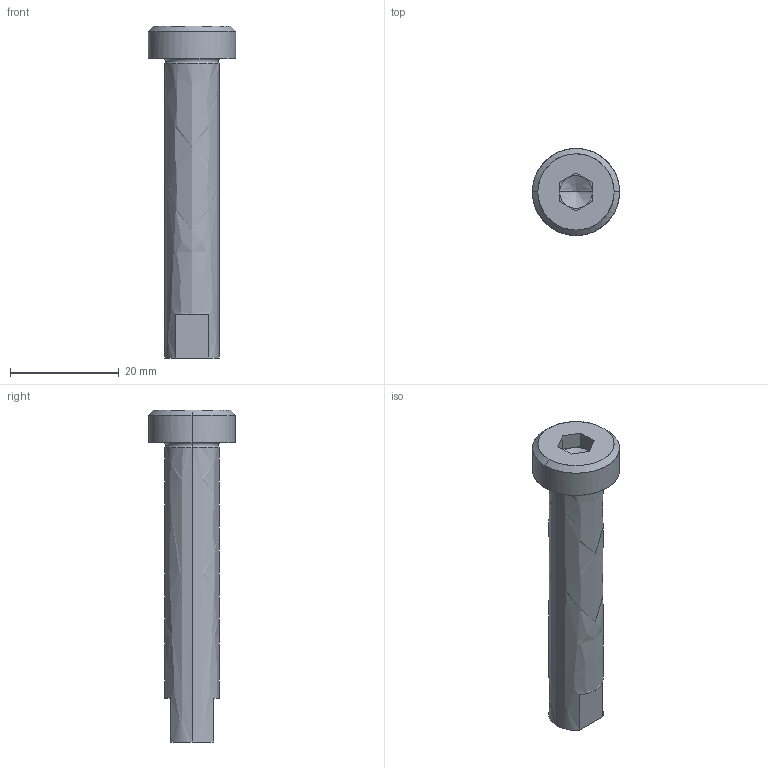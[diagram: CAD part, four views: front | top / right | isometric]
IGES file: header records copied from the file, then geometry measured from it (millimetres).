
Global section: file name: E:\UnigraphicsGraphicData\MISUMI_PRESS-PARTS\IGES\3d_sbtn10-55_00140_r00.igs; native system: NX V5.0; preprocessor: UGS NX IGES V5.0; author: MISUMI; date: 20110105.162505; units: millimetre
Bounding box: 16 x 16 x 61 mm (x, y, z)
Surface area: 2726.7 mm2 (no closed solid volume)
Topology: 0 solids, 0 shells, 38 faces, 202 edges, 198 vertices
Faces by surface type: bspline 38
